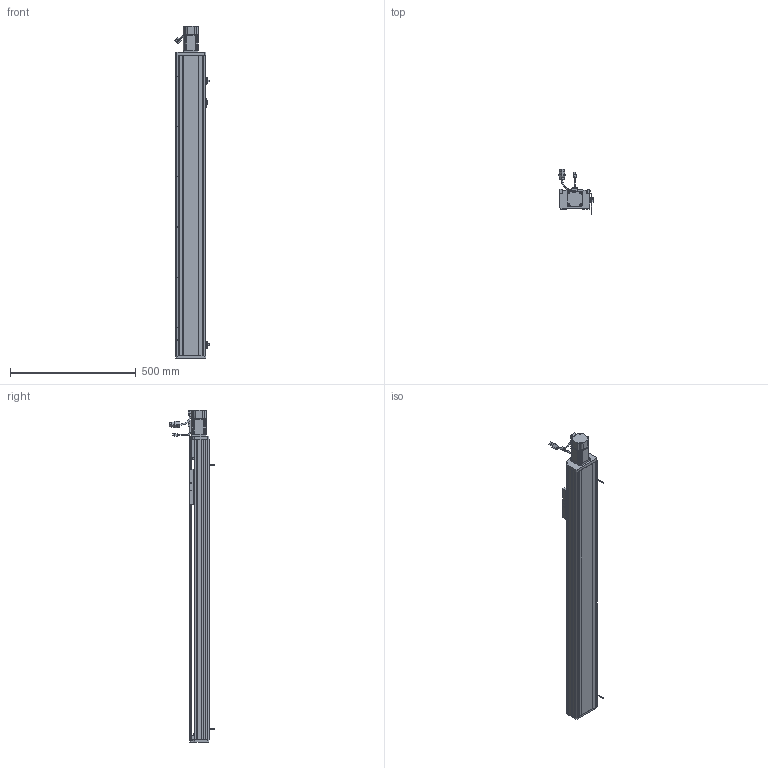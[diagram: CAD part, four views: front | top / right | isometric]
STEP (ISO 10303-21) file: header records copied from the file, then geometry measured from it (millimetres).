
FILE_DESCRIPTION (( 'STEP AP214' ), '1' );
FILE_NAME ('CTH120-950.STEP', '2019-11-20T02:45:04', ( '微软用户' ), ( '微软中国' ), 'SwSTEP 2.0', 'SolidWorks 2017', '' );
FILE_SCHEMA (( 'AUTOMOTIVE_DESIGN' ));
Length unit declared in the file: millimetre
Products named in the file (33): M4-L10囀鞠褒蹟佪; M4-L22囀鞠褒蹟佪; 7001-DB; 7001; 噩砃EGH15-CA; 粣創揤啣; M3-L8囀鞠褒蹟佪; COL12B-粣遠; CT12耀郪-覜茼んえ; 坶踡蹟譫; EE-SX672-BR; 120耀郪-粣創釱; M4-L6半圆头内六角螺丝; 120耀郪-傷啣; M5-L20囀鞠褒蹟佪; 120模组-盖子_默认<按加工>; M5-L12囀鞠褒蹟佪; 120耀郪-侜督儂啣; 怢湛200W侜督萇儂ECMA-CX0602ES; SFH1605; 盓傅釱蚾饜极; 136蹟簽蟀諉輸; 6000; 120模组-移动座_默认<按加工>; 120耀郪-盓傅釱; SFH1605-450; M4-L16囀鞠褒蹟佪; 120模组-底座_默认<按加工>; EGH15-CA; EGH15_RAIL; CTH120-950; 珨极宒粣創釱; 遣喳蝶15x12x8
Assembly tree (90 placements, depth 4):
  CTH120-950
    120模组-底座_默认<按加工>
    SFH1605-450
    120模组-移动座_默认<按加工>
    136蹟簽蟀諉輸
    SFH1605
    120耀郪-侜督儂啣
    120模组-盖子_默认<按加工>
    120耀郪-傷啣
    珨极宒粣創釱
      120耀郪-粣創釱
      坶踡蹟譫
      COL12B-粣遠  x2
      粣創揤啣
      7001-DB
        7001  x2
      M4-L22囀鞠褒蹟佪  x6
      M4-L10囀鞠褒蹟佪  x4
      遣喳蝶15x12x8
    EGH15_RAIL  x2
    EGH15-CA  x2
    M4-L16囀鞠褒蹟佪  x8
    M4-L10囀鞠褒蹟佪  x22
    盓傅釱蚾饜极
      120耀郪-盓傅釱
      6000
      遣喳蝶15x12x8  x2
      M4-L22囀鞠褒蹟佪  x2
    怢湛200W侜督萇儂ECMA-CX0602ES
    M5-L12囀鞠褒蹟佪  x3
    M5-L20囀鞠褒蹟佪  x4
    M4-L6半圆头内六角螺丝  x4
    EE-SX672-BR  x2
    CT12耀郪-覜茼んえ
    M3-L8囀鞠褒蹟佪  x4
    噩砃EGH15-CA  x2
Bounding box: 137.94 x 179.67 x 1322 mm (x, y, z)
Volume: 4925056.5 mm3; surface area: 1520667 mm2
Topology: 87 solids, 96 shells, 5474 faces, 14535 edges, 9313 vertices
Faces by surface type: plane 2929, cylinder 1652, cone 559, bspline 241, torus 81, sphere 12
Entity records: 119272 total; most frequent: CARTESIAN_POINT 35386, ORIENTED_EDGE 17772, DIRECTION 15939, EDGE_CURVE 8886, VERTEX_POINT 5835, AXIS2_PLACEMENT_3D 5461, LINE 5017, VECTOR 5017
